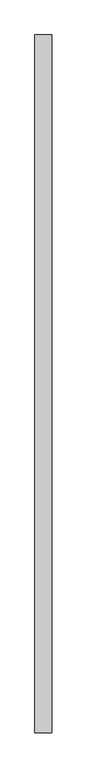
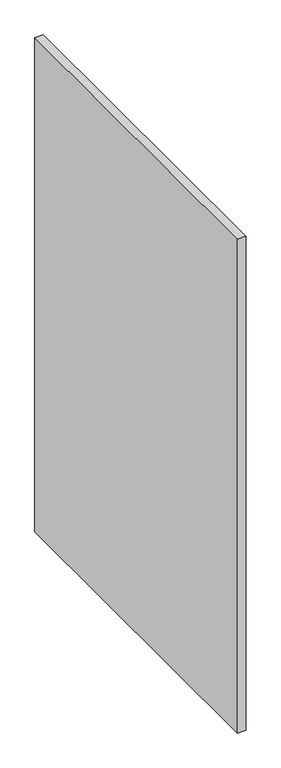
"""IFC4 building model written with IfcOpenShell, lengths in millimetres: furniture geometry, Divisoria_Lateral Fechada : Divisoria_Lateral Fechada_130x180."""

from ifc_helpers import new_model, si_unit, frame, origin, place, context, project, spatial, polyline, outline, extrude, source, transform, mapped, element, save


def furniture_46579f0e(model_context):
    return source(origin(), model_context, "Body", "SweptSolid", [
        extrude(outline(polyline([(59.7003264, -50.0), (29.7003264, -50.0), (29.7003264, 1194.4681316), (59.7003264, 1194.4681316), (59.7003264, -50.0)])), frame((0.0, 0.0, 50.0), z_axis=(0.0, 0.0, 1.0), x_axis=(1.0, 0.0, 0.0)), (0.0, 0.0, 1.0), 1850.0),
    ])


if __name__ == "__main__":
    model = new_model("IFC4")
    model_context = context("Model", 3, world=origin())
    ifc_project = project(units=[si_unit("LENGTHUNIT", "METRE", prefix="MILLI")], contexts=[model_context])
    site = spatial("IfcSite", under=ifc_project)
    building = spatial("IfcBuilding", under=site)
    placement = place(None, origin())
    furniture_shape = furniture_46579f0e(model_context)
    element("IfcFurniture", 1, ObjectType="Divisoria_Lateral Fechada : Divisoria_Lateral Fechada_130x180", at=placement, inside=building, context=model_context, shape_type="MappedRepresentation", body=[
        mapped(furniture_shape, transform((0.0, 0.0, 0.0), x_axis=(1.0, 0.0, 0.0), y_axis=(0.0, 1.0, 0.0), z_axis=(0.0, 0.0, 1.0))),
    ])
    save(model, "model.ifc")
